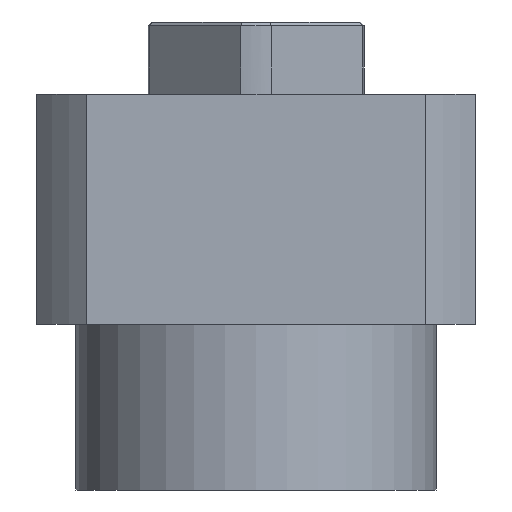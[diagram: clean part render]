
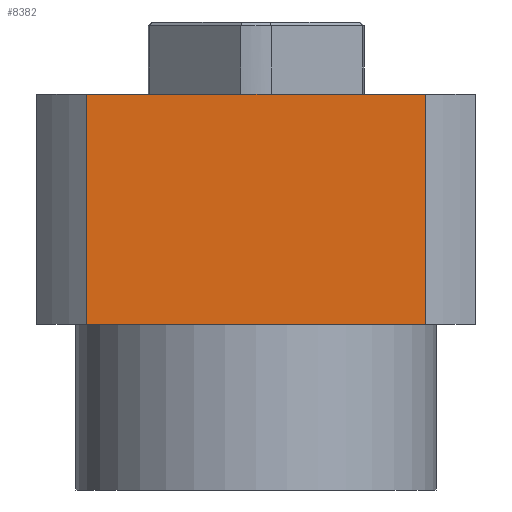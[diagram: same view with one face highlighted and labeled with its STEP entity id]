
A CAD part, front view. The second image highlights one B-rep face of the part: STEP entity #8382.
In plain terms, the highlighted planar face has unit normal (0, -1, 0).
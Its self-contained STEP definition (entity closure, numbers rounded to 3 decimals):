
#493 = ORIENTED_EDGE ( 'NONE', *, *, #5705, .F. ) ;
#911 = VECTOR ( 'NONE', #5481, 1000. ) ;
#946 = CARTESIAN_POINT ( 'NONE',  ( -23.495, -30.5, 35. ) ) ;
#1079 = CARTESIAN_POINT ( 'NONE',  ( 56.833, -30.5, 0. ) ) ;
#1534 = EDGE_CURVE ( 'NONE', #4893, #9826, #8226, .T. ) ;
#1683 = ORIENTED_EDGE ( 'NONE', *, *, #8347, .F. ) ;
#1841 = DIRECTION ( 'NONE',  ( 0., 0., -1. ) ) ;
#1877 = LINE ( 'NONE', #6082, #2977 ) ;
#2008 = FACE_OUTER_BOUND ( 'NONE', #6230, .T. ) ;
#2188 = CARTESIAN_POINT ( 'NONE',  ( 23.495, -30.5, 55. ) ) ;
#2201 = VECTOR ( 'NONE', #1841, 1000. ) ;
#2670 = VECTOR ( 'NONE', #11354, 1000. ) ;
#2673 = CARTESIAN_POINT ( 'NONE',  ( -23.495, -30.5, 55. ) ) ;
#2770 = DIRECTION ( 'NONE',  ( -1., 0., 0. ) ) ;
#2977 = VECTOR ( 'NONE', #10341, 1000. ) ;
#3270 = CARTESIAN_POINT ( 'NONE',  ( -23.495, -30.5, 23. ) ) ;
#3770 = LINE ( 'NONE', #10709, #911 ) ;
#4409 = AXIS2_PLACEMENT_3D ( 'NONE', #1079, #6158, #2770 ) ;
#4514 = ORIENTED_EDGE ( 'NONE', *, *, #1534, .F. ) ;
#4516 = CARTESIAN_POINT ( 'NONE',  ( 23.495, -30.5, 35. ) ) ;
#4893 = VERTEX_POINT ( 'NONE', #2188 ) ;
#5481 = DIRECTION ( 'NONE',  ( 1., 0., 0. ) ) ;
#5705 = EDGE_CURVE ( 'NONE', #9826, #8308, #1877, .T. ) ;
#6082 = CARTESIAN_POINT ( 'NONE',  ( 0., -30.5, 23. ) ) ;
#6158 = DIRECTION ( 'NONE',  ( 0., 1., 0. ) ) ;
#6217 = EDGE_CURVE ( 'NONE', #8308, #6950, #10498, .T. ) ;
#6230 = EDGE_LOOP ( 'NONE', ( #4514, #1683, #10901, #493 ) ) ;
#6950 = VERTEX_POINT ( 'NONE', #2673 ) ;
#7112 = PLANE ( 'NONE',  #4409 ) ;
#8226 = LINE ( 'NONE', #4516, #2201 ) ;
#8308 = VERTEX_POINT ( 'NONE', #3270 ) ;
#8347 = EDGE_CURVE ( 'NONE', #6950, #4893, #3770, .T. ) ;
#8382 = ADVANCED_FACE ( 'NONE', ( #2008 ), #7112, .F. ) ;
#9733 = CARTESIAN_POINT ( 'NONE',  ( 23.495, -30.5, 23. ) ) ;
#9826 = VERTEX_POINT ( 'NONE', #9733 ) ;
#10341 = DIRECTION ( 'NONE',  ( -1., 0., 0. ) ) ;
#10498 = LINE ( 'NONE', #946, #2670 ) ;
#10709 = CARTESIAN_POINT ( 'NONE',  ( 0., -30.5, 55. ) ) ;
#10901 = ORIENTED_EDGE ( 'NONE', *, *, #6217, .F. ) ;
#11354 = DIRECTION ( 'NONE',  ( 0., 0., 1. ) ) ;
